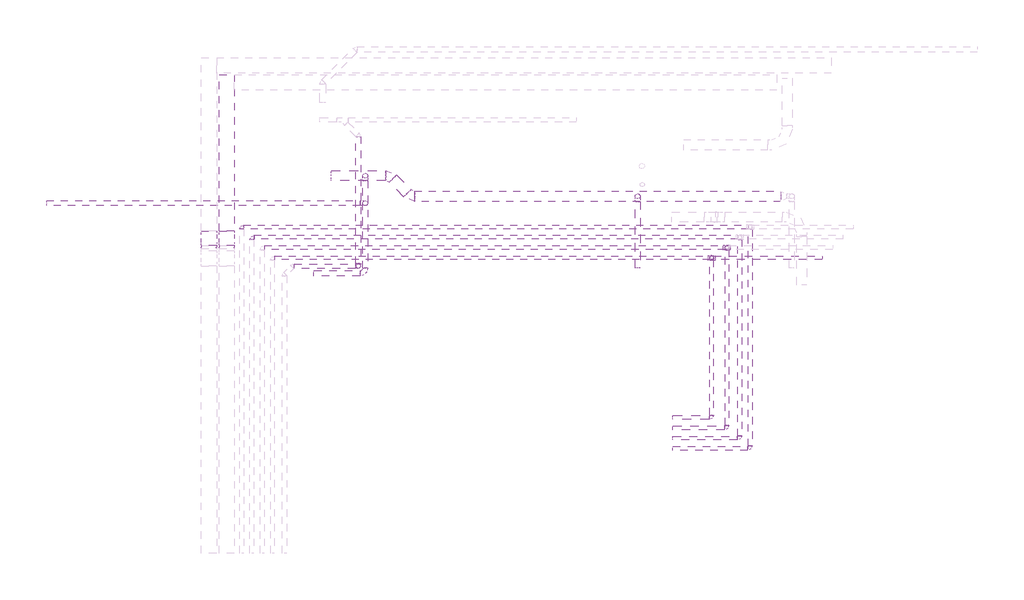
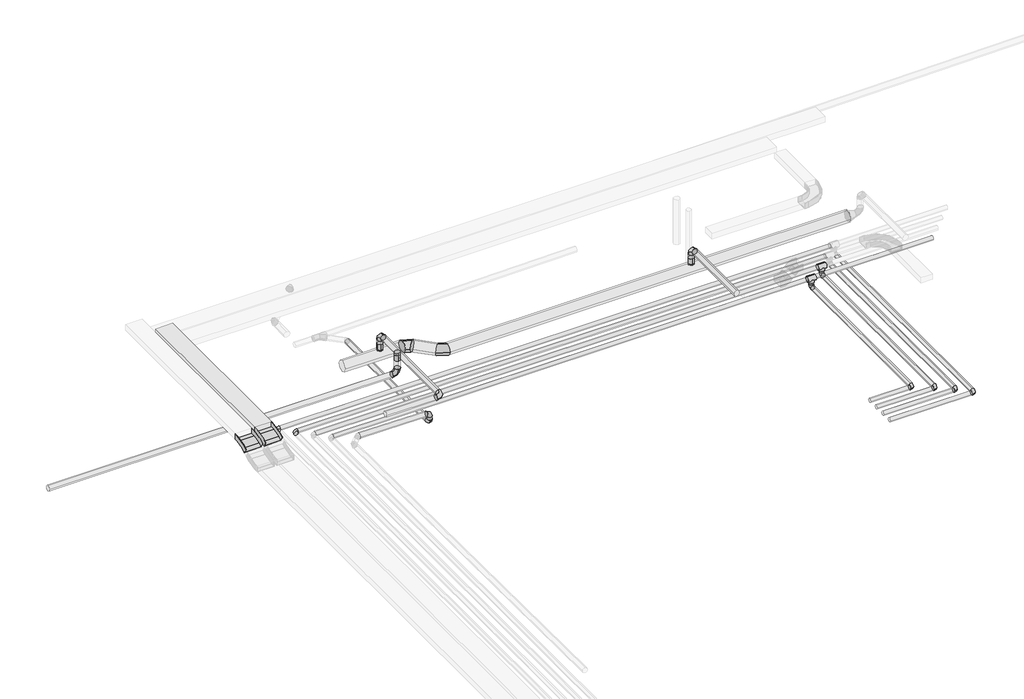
# One storey, part 4 of 5: 18 pipe segments, 12 pipe fittings, 10 duct segments, 9 duct fittings, 2 cable carrier fittings, 1 cable carrier segment.
"""IFC4 building model written with IfcOpenShell, lengths in millimetres."""

from ifc_helpers import new_model, si_unit, point, frame, frame_2d, origin, place, context, project, spatial, polyline, circle_curve, trimmed, segment, composite_curve, outline, extrude, transform, mapped, element, save
from components import m_codo_vertical_exterior_de_canal_el_c4dc7364, ext_600b08cb, ext_088e3dfa, ext_2c048923, m_codo_redondo_ext_1_d_85067ab4, m_codo_redondo_ext_1_d_d62552e0, pipe_fitting_688cd524, pipe_fitting_3a68447e, t_soldadura_a_enchufe_ff252817

model = new_model("IFC4")

# Units and contexts
model_context = context("Model", 3, world=origin())
ifc_project = project(units=[si_unit("LENGTHUNIT", "METRE", prefix="MILLI")], contexts=[model_context])

# Site, building, storey
site = spatial("IfcSite", under=ifc_project)
building = spatial("IfcBuilding", under=site)
storey = spatial("IfcBuildingStorey", under=building, Name="Nivell 02 P02_PP", Elevation=14910.0)

# Cable carrier fittings
placement = place(None, origin())
m_codo_vertical_exterior_de_canal_el_shape = m_codo_vertical_exterior_de_canal_el_c4dc7364(model_context)
element("IfcCableCarrierFitting", 1, ObjectType="M_Codo vertical exterior de canal : EL", at=placement, inside=storey, context=model_context, shape_type="MappedRepresentation", body=[
    mapped(m_codo_vertical_exterior_de_canal_el_shape, transform((5357.0671065, 6149.6159499, 18210.0), x_axis=(0.0, -1.0, 0.0), y_axis=(0.0, 0.0, -1.0), z_axis=(1.0, 0.0, 0.0))),
])
element("IfcCableCarrierFitting", 2, ObjectType="M_Codo vertical exterior de canal : EL", at=placement, inside=storey, context=model_context, shape_type="MappedRepresentation", body=[
    mapped(m_codo_vertical_exterior_de_canal_el_shape, transform((5008.2381883, 6149.6159499, 18210.0), x_axis=(0.0, -1.0, 0.0), y_axis=(0.0, 0.0, -1.0), z_axis=(1.0, 0.0, 0.0))),
])

# Cable carrier segment
element("IfcCableCarrierSegment", 3, ObjectType="EL", at=placement, inside=storey, context=model_context, shape_type="SweptSolid", body=[
    extrude(outline(polyline([(5207.0671065, 9356.732053), (5507.0671065, 9356.732053), (5507.0671065, 6318.3981673), (5207.0671065, 6318.3981673), (5207.0671065, 9356.732053)])), frame((0.0, 0.0, 18160.0), z_axis=(0.0, 0.0, 1.0), x_axis=(1.0, 0.0, 0.0)), (0.0, 0.0, 1.0), 100.0),
])

# Duct fittings
ext_shape = ext_600b08cb(model_context)
element("IfcDuctFitting", 4, ObjectType="M_Toma de derivación redonda : EXT", at=placement, inside=storey, context=model_context, shape_type="MappedRepresentation", body=[
    mapped(ext_shape, transform((13350.5896993, 6992.2199701, 18090.0), x_axis=(0.0, 0.0, 1.0), y_axis=(1.0, 0.0, 0.0), z_axis=(0.0, 1.0, 0.0))),
])
ext_2_shape = ext_088e3dfa(model_context)
element("IfcDuctFitting", 5, ObjectType="M_Toma de derivación redonda : EXT", at=placement, inside=storey, context=model_context, shape_type="MappedRepresentation", body=[
    mapped(ext_2_shape, transform((8050.5896993, 6856.5337216, 18310.0), x_axis=(0.0, 0.0, -1.0), y_axis=(0.0, -1.0, 0.0), z_axis=(-1.0, 0.0, 0.0))),
])
ext_3_shape = ext_2c048923(model_context)
element("IfcDuctFitting", 6, ObjectType="M_Toma de derivación redonda : EXT", at=placement, inside=storey, context=model_context, shape_type="MappedRepresentation", body=[
    mapped(ext_3_shape, transform((8050.5896993, 7392.2199701, 18090.0), x_axis=(0.0, 0.0, 1.0), y_axis=(1.0, 0.0, 0.0), z_axis=(0.0, 1.0, 0.0))),
])
m_codo_redondo_ext_1_d_shape = m_codo_redondo_ext_1_d_85067ab4(model_context)
element("IfcDuctFitting", 7, ObjectType="M_Codo redondo : EXT_1 D", at=placement, inside=storey, context=model_context, shape_type="MappedRepresentation", body=[
    mapped(m_codo_redondo_ext_1_d_shape, transform((8050.5896993, 5490.7319202, 18360.0), x_axis=(1.0, 0.0, 0.0), y_axis=(0.0, 1.0, 0.0), z_axis=(0.0, 0.0, 1.0))),
])
element("IfcDuctFitting", 8, ObjectType="M_Codo redondo : EXT_1 D", at=placement, inside=storey, context=model_context, shape_type="MappedRepresentation", body=[
    mapped(m_codo_redondo_ext_1_d_shape, transform((13350.5896993, 6992.2199701, 18360.0), x_axis=(0.0, 1.0, 0.0), y_axis=(0.0, 0.0, -1.0), z_axis=(-1.0, 0.0, 0.0))),
])
element("IfcDuctFitting", 9, ObjectType="M_Codo redondo : EXT_1 D", at=placement, inside=storey, context=model_context, shape_type="MappedRepresentation", body=[
    mapped(m_codo_redondo_ext_1_d_shape, transform((8050.5896993, 6856.5337216, 17960.0), x_axis=(0.0, 0.0, -1.0), y_axis=(-1.0, 0.0, 0.0), z_axis=(0.0, 1.0, 0.0))),
])
element("IfcDuctFitting", 10, ObjectType="M_Codo redondo : EXT_1 D", at=placement, inside=storey, context=model_context, shape_type="MappedRepresentation", body=[
    mapped(m_codo_redondo_ext_1_d_shape, transform((8050.5896993, 7392.2199701, 18360.0), x_axis=(0.0, 1.0, 0.0), y_axis=(0.0, 0.0, -1.0), z_axis=(-1.0, 0.0, 0.0))),
])
m_codo_redondo_ext_1_d_2_shape = m_codo_redondo_ext_1_d_d62552e0(model_context)
element("IfcDuctFitting", 11, ObjectType="M_Codo redondo : EXT_1 D", at=placement, inside=storey, context=model_context, shape_type="MappedRepresentation", body=[
    mapped(m_codo_redondo_ext_1_d_2_shape, transform((8930.5896993, 6992.2199701, 17990.0), x_axis=(0.7071067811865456, -0.7071067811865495, 0.0), y_axis=(0.7071067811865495, 0.7071067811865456, 0.0), z_axis=(0.0, 0.0, 1.0))),
])
element("IfcDuctFitting", 12, ObjectType="M_Codo redondo : EXT_1 D", at=placement, inside=storey, context=model_context, shape_type="MappedRepresentation", body=[
    mapped(m_codo_redondo_ext_1_d_2_shape, transform((8530.5878282, 7392.2218412, 17990.0), x_axis=(-0.7071067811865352, 0.7071067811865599, 0.0), y_axis=(-0.7071067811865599, -0.7071067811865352, 0.0), z_axis=(0.0, 0.0, 1.0))),
])

# Duct segments
element("IfcDuctSegment", 13, ObjectType="EXT_Acer Galvanitzat - Rígid", at=placement, inside=storey, context=model_context, shape_type="SweptSolid", body=[
    extrude(outline(composite_curve([segment(trimmed(circle_curve(frame_2d((6992.2199701, 17990.0)), 100.0), [point((7092.2199701, 17990.0))], [point((6992.2199701, 17890.0))], False, "CARTESIAN"), True, "CONTINUOUS"), segment(trimmed(circle_curve(frame_2d((6992.2199701, 17990.0)), 100.0), [point((6992.2199701, 17890.0))], [point((6892.2199701, 17990.0))], False, "CARTESIAN"), True, "CONTINUOUS"), segment(trimmed(circle_curve(frame_2d((6992.2199701, 17990.0)), 100.0), [point((6892.2199701, 17990.0))], [point((6992.2199701, 18090.0))], False, "CARTESIAN"), True, "CONTINUOUS"), segment(trimmed(circle_curve(frame_2d((6992.2199701, 17990.0)), 100.0), [point((6992.2199701, 18090.0))], [point((7092.2199701, 17990.0))], False, "CARTESIAN"), True, "CONTINUOUS")], self_intersect=False)), frame((9013.4324117, 0.0, 0.0), z_axis=(1.0, 0.0, 0.0), x_axis=(0.0, 1.0, 0.0)), (0.0, 0.0, 1.0), 7116.4466094),
])
element("IfcDuctSegment", 14, ObjectType="EXT_Acer Galvanitzat - Rígid", at=placement, inside=storey, context=model_context, shape_type="SweptSolid", body=[
    extrude(outline(composite_curve([segment(trimmed(circle_curve(frame_2d((5490.7319202, 18360.0)), 50.0), [point((5440.7319202, 18360.0))], [point((5490.7319202, 18410.0))], False, "CARTESIAN"), True, "CONTINUOUS"), segment(trimmed(circle_curve(frame_2d((5490.7319202, 18360.0)), 50.0), [point((5490.7319202, 18410.0))], [point((5540.7319202, 18360.0))], False, "CARTESIAN"), True, "CONTINUOUS"), segment(trimmed(circle_curve(frame_2d((5490.7319202, 18360.0)), 50.0), [point((5540.7319202, 18360.0))], [point((5490.7319202, 18310.0))], False, "CARTESIAN"), True, "CONTINUOUS"), segment(trimmed(circle_curve(frame_2d((5490.7319202, 18360.0)), 50.0), [point((5490.7319202, 18310.0))], [point((5440.7319202, 18360.0))], False, "CARTESIAN"), True, "CONTINUOUS")], self_intersect=False)), frame((7050.5896993, 0.0, 0.0), z_axis=(1.0, 0.0, 0.0), x_axis=(0.0, 1.0, 0.0)), (0.0, 0.0, 1.0), 900.0),
])
element("IfcDuctSegment", 15, ObjectType="EXT_Acer Galvanitzat - Rígid", at=placement, inside=storey, context=model_context, shape_type="SweptSolid", body=[
    extrude(outline(composite_curve([segment(trimmed(circle_curve(frame_2d((18360.0, 8050.5896993)), 50.0), [point((18360.0, 8000.5896993))], [point((18310.0, 8050.5896993))], False, "CARTESIAN"), True, "CONTINUOUS"), segment(trimmed(circle_curve(frame_2d((18360.0, 8050.5896993)), 50.0), [point((18310.0, 8050.5896993))], [point((18360.0, 8100.5896993))], False, "CARTESIAN"), True, "CONTINUOUS"), segment(trimmed(circle_curve(frame_2d((18360.0, 8050.5896993)), 50.0), [point((18360.0, 8100.5896993))], [point((18410.0, 8050.5896993))], False, "CARTESIAN"), True, "CONTINUOUS"), segment(trimmed(circle_curve(frame_2d((18360.0, 8050.5896993)), 50.0), [point((18410.0, 8050.5896993))], [point((18360.0, 8000.5896993))], False, "CARTESIAN"), True, "CONTINUOUS")], self_intersect=False)), frame((0.0, 5590.7319202, 0.0), z_axis=(0.0, 1.0, 0.0), x_axis=(0.0, 0.0, 1.0)), (0.0, 0.0, 1.0), 1701.48805),
])
element("IfcDuctSegment", 16, ObjectType="EXT_Acer Galvanitzat - Rígid", at=placement, inside=storey, context=model_context, shape_type="SweptSolid", body=[
    extrude(outline(composite_curve([segment(trimmed(circle_curve(frame_2d((8050.5896993, 7392.2199701)), 50.0), [point((8000.5896993, 7392.2199701))], [point((8050.5896993, 7442.2199701))], False, "CARTESIAN"), True, "CONTINUOUS"), segment(trimmed(circle_curve(frame_2d((8050.5896993, 7392.2199701)), 50.0), [point((8050.5896993, 7442.2199701))], [point((8100.5896993, 7392.2199701))], False, "CARTESIAN"), True, "CONTINUOUS"), segment(trimmed(circle_curve(frame_2d((8050.5896993, 7392.2199701)), 50.0), [point((8100.5896993, 7392.2199701))], [point((8050.5896993, 7342.2199701))], False, "CARTESIAN"), True, "CONTINUOUS"), segment(trimmed(circle_curve(frame_2d((8050.5896993, 7392.2199701)), 50.0), [point((8050.5896993, 7342.2199701))], [point((8000.5896993, 7392.2199701))], False, "CARTESIAN"), True, "CONTINUOUS")], self_intersect=False)), frame((0.0, 0.0, 18191.6), z_axis=(0.0, 0.0, 1.0), x_axis=(1.0, 0.0, 0.0)), (0.0, 0.0, 1.0), 68.4),
])
element("IfcDuctSegment", 17, ObjectType="EXT_Acer Galvanitzat - Rígid", at=placement, inside=storey, context=model_context, shape_type="SweptSolid", body=[
    extrude(outline(composite_curve([segment(trimmed(circle_curve(frame_2d((18360.0, 13350.5896993)), 50.0), [point((18360.0, 13300.5896993))], [point((18310.0, 13350.5896993))], False, "CARTESIAN"), True, "CONTINUOUS"), segment(trimmed(circle_curve(frame_2d((18360.0, 13350.5896993)), 50.0), [point((18310.0, 13350.5896993))], [point((18360.0, 13400.5896993))], False, "CARTESIAN"), True, "CONTINUOUS"), segment(trimmed(circle_curve(frame_2d((18360.0, 13350.5896993)), 50.0), [point((18360.0, 13400.5896993))], [point((18410.0, 13350.5896993))], False, "CARTESIAN"), True, "CONTINUOUS"), segment(trimmed(circle_curve(frame_2d((18360.0, 13350.5896993)), 50.0), [point((18410.0, 13350.5896993))], [point((18360.0, 13300.5896993))], False, "CARTESIAN"), True, "CONTINUOUS")], self_intersect=False)), frame((0.0, 5590.7319202, 0.0), z_axis=(0.0, 1.0, 0.0), x_axis=(0.0, 0.0, 1.0)), (0.0, 0.0, 1.0), 1301.48805),
])
element("IfcDuctSegment", 18, ObjectType="EXT_Acer Galvanitzat - Rígid", at=placement, inside=storey, context=model_context, shape_type="SweptSolid", body=[
    extrude(outline(composite_curve([segment(trimmed(circle_curve(frame_2d((13350.5896993, 6992.2199701)), 50.0), [point((13300.5896993, 6992.2199701))], [point((13350.5896993, 7042.2199701))], False, "CARTESIAN"), True, "CONTINUOUS"), segment(trimmed(circle_curve(frame_2d((13350.5896993, 6992.2199701)), 50.0), [point((13350.5896993, 7042.2199701))], [point((13400.5896993, 6992.2199701))], False, "CARTESIAN"), True, "CONTINUOUS"), segment(trimmed(circle_curve(frame_2d((13350.5896993, 6992.2199701)), 50.0), [point((13400.5896993, 6992.2199701))], [point((13350.5896993, 6942.2199701))], False, "CARTESIAN"), True, "CONTINUOUS"), segment(trimmed(circle_curve(frame_2d((13350.5896993, 6992.2199701)), 50.0), [point((13350.5896993, 6942.2199701))], [point((13300.5896993, 6992.2199701))], False, "CARTESIAN"), True, "CONTINUOUS")], self_intersect=False)), frame((0.0, 0.0, 18191.6), z_axis=(0.0, 0.0, 1.0), x_axis=(1.0, 0.0, 0.0)), (0.0, 0.0, 1.0), 68.4),
])
element("IfcDuctSegment", 19, ObjectType="EXT_Acer Galvanitzat - Rígid", at=placement, inside=storey, context=model_context, shape_type="SweptSolid", body=[
    extrude(outline(composite_curve([segment(trimmed(circle_curve(frame_2d((8050.5896993, 6856.5337216)), 50.0), [point((8050.5896993, 6906.5337216))], [point((8100.5896993, 6856.5337216))], False, "CARTESIAN"), True, "CONTINUOUS"), segment(trimmed(circle_curve(frame_2d((8050.5896993, 6856.5337216)), 50.0), [point((8100.5896993, 6856.5337216))], [point((8050.5896993, 6806.5337216))], False, "CARTESIAN"), True, "CONTINUOUS"), segment(trimmed(circle_curve(frame_2d((8050.5896993, 6856.5337216)), 50.0), [point((8050.5896993, 6806.5337216))], [point((8000.5896993, 6856.5337216))], False, "CARTESIAN"), True, "CONTINUOUS"), segment(trimmed(circle_curve(frame_2d((8050.5896993, 6856.5337216)), 50.0), [point((8000.5896993, 6856.5337216))], [point((8050.5896993, 6906.5337216))], False, "CARTESIAN"), True, "CONTINUOUS")], self_intersect=False)), frame((0.0, 0.0, 18060.0), z_axis=(0.0, 0.0, 1.0), x_axis=(1.0, 0.0, 0.0)), (0.0, 0.0, 1.0), 148.4),
])
element("IfcDuctSegment", 20, ObjectType="EXT_Acer Galvanitzat - Rígid", at=placement, inside=storey, context=model_context, shape_type="SweptSolid", body=[
    extrude(outline(composite_curve([segment(trimmed(circle_curve(frame_2d((6856.5337216, 17960.0)), 50.0), [point((6906.5337216, 17960.0))], [point((6856.5337216, 17910.0))], False, "CARTESIAN"), True, "CONTINUOUS"), segment(trimmed(circle_curve(frame_2d((6856.5337216, 17960.0)), 50.0), [point((6856.5337216, 17910.0))], [point((6806.5337216, 17960.0))], False, "CARTESIAN"), True, "CONTINUOUS"), segment(trimmed(circle_curve(frame_2d((6856.5337216, 17960.0)), 50.0), [point((6806.5337216, 17960.0))], [point((6856.5337216, 18010.0))], False, "CARTESIAN"), True, "CONTINUOUS"), segment(trimmed(circle_curve(frame_2d((6856.5337216, 17960.0)), 50.0), [point((6856.5337216, 18010.0))], [point((6906.5337216, 17960.0))], False, "CARTESIAN"), True, "CONTINUOUS")], self_intersect=False)), frame((1850.5896993, 0.0, 0.0), z_axis=(1.0, 0.0, 0.0), x_axis=(0.0, 1.0, 0.0)), (0.0, 0.0, 1.0), 6100.0),
])
element("IfcDuctSegment", 21, ObjectType="EXT_Acer Galvanitzat - Rígid", at=placement, inside=storey, context=model_context, shape_type="SweptSolid", body=[
    extrude(outline(composite_curve([segment(trimmed(circle_curve(frame_2d((0.0, 100.0)), 100.0), [point((100.0, 100.0))], [point((0.0, 0.0))], False, "CARTESIAN"), True, "CONTINUOUS"), segment(trimmed(circle_curve(frame_2d((0.0, 100.0)), 100.0), [point((0.0, 0.0))], [point((-100.0, 100.0))], False, "CARTESIAN"), True, "CONTINUOUS"), segment(trimmed(circle_curve(frame_2d((0.0, 100.0)), 100.0), [point((-100.0, 100.0))], [point((0.0, 200.0))], False, "CARTESIAN"), True, "CONTINUOUS"), segment(trimmed(circle_curve(frame_2d((0.0, 100.0)), 100.0), [point((0.0, 200.0))], [point((100.0, 100.0))], False, "CARTESIAN"), True, "CONTINUOUS")], self_intersect=False)), frame((8872.0110555, 7050.7986139, 18090.0), z_axis=(-0.7071067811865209, 0.7071067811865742, 0.0), x_axis=(0.7071067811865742, 0.7071067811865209, 0.0)), (0.0, 0.0, 1.0), 400.0026461),
])
element("IfcDuctSegment", 22, ObjectType="EXT_Acer Galvanitzat - Rígid", at=placement, inside=storey, context=model_context, shape_type="SweptSolid", body=[
    extrude(outline(composite_curve([segment(trimmed(circle_curve(frame_2d((7392.2218412, 17990.0)), 100.0), [point((7492.2218412, 17990.0))], [point((7392.2218412, 17890.0))], False, "CARTESIAN"), True, "CONTINUOUS"), segment(trimmed(circle_curve(frame_2d((7392.2218412, 17990.0)), 100.0), [point((7392.2218412, 17890.0))], [point((7292.2218412, 17990.0))], False, "CARTESIAN"), True, "CONTINUOUS"), segment(trimmed(circle_curve(frame_2d((7392.2218412, 17990.0)), 100.0), [point((7292.2218412, 17990.0))], [point((7392.2218412, 18090.0))], False, "CARTESIAN"), True, "CONTINUOUS"), segment(trimmed(circle_curve(frame_2d((7392.2218412, 17990.0)), 100.0), [point((7392.2218412, 18090.0))], [point((7492.2218412, 17990.0))], False, "CARTESIAN"), True, "CONTINUOUS")], self_intersect=False)), frame((7390.5878282, 0.0, 0.0), z_axis=(1.0, 0.0, 0.0), x_axis=(0.0, 1.0, 0.0)), (0.0, 0.0, 1.0), 1057.1572875),
])

# Pipe fittings
pipe_fitting_shape = pipe_fitting_688cd524(model_context)
element("IfcPipeFitting", 23, ObjectType="M_Codo - Genérico : Estándar", at=placement, inside=storey, context=model_context, shape_type="MappedRepresentation", body=[
    mapped(pipe_fitting_shape, transform((7914.0895519, 5631.0053732, 17992.1394404), x_axis=(0.9999500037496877, 0.0, -0.00999950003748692), y_axis=(-0.00999950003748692, 0.0, -0.9999500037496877), z_axis=(0.0, 1.0, 0.0))),
])
element("IfcPipeFitting", 24, ObjectType="M_Codo - Genérico : Estándar", at=placement, inside=storey, context=model_context, shape_type="MappedRepresentation", body=[
    mapped(pipe_fitting_shape, transform((7914.0627734, 5631.0105829, 17840.0), x_axis=(0.0, 0.0, -1.0), y_axis=(0.0, 1.0, 0.0), z_axis=(1.0, 0.0, 0.0))),
])
pipe_fitting_2_shape = pipe_fitting_3a68447e(model_context)
element("IfcPipeFitting", 25, ObjectType="M_Codo - Genérico : Estándar", at=placement, inside=storey, context=model_context, shape_type="MappedRepresentation", body=[
    mapped(pipe_fitting_2_shape, transform((5645.7381883, 6394.2427547, 18022.5), x_axis=(-1.0, 0.0, 0.0), y_axis=(0.0, -1.0, 0.0), z_axis=(0.0, 0.0, 1.0))),
])
element("IfcPipeFitting", 26, ObjectType="M_Codo - Genérico : Estándar", at=placement, inside=storey, context=model_context, shape_type="MappedRepresentation", body=[
    mapped(pipe_fitting_2_shape, transform((5845.7381883, 6194.2427547, 18022.5), x_axis=(-1.0, 0.0, 0.0), y_axis=(0.0, -1.0, 0.0), z_axis=(0.0, 0.0, 1.0))),
])
element("IfcPipeFitting", 27, ObjectType="M_Codo - Genérico : Estándar", at=placement, inside=storey, context=model_context, shape_type="MappedRepresentation", body=[
    mapped(pipe_fitting_2_shape, transform((14787.4352568, 2683.4063617, 17872.5), x_axis=(1.0, 0.0, 0.0), y_axis=(0.0, 1.0, 0.0), z_axis=(0.0, 0.0, 1.0))),
])
element("IfcPipeFitting", 28, ObjectType="M_Codo - Genérico : Estándar", at=placement, inside=storey, context=model_context, shape_type="MappedRepresentation", body=[
    mapped(pipe_fitting_2_shape, transform((14787.4352568, 5794.2427547, 17872.5), x_axis=(0.0, 0.0, -1.0), y_axis=(0.0, -1.0, 0.0), z_axis=(-1.0, 0.0, 0.0))),
])
element("IfcPipeFitting", 29, ObjectType="M_Codo - Genérico : Estándar", at=placement, inside=storey, context=model_context, shape_type="MappedRepresentation", body=[
    mapped(pipe_fitting_2_shape, transform((15087.4352568, 2483.4063617, 17872.5), x_axis=(1.0, 0.0, 0.0), y_axis=(0.0, 1.0, 0.0), z_axis=(0.0, 0.0, 1.0))),
])
element("IfcPipeFitting", 30, ObjectType="M_Codo - Genérico : Estándar", at=placement, inside=storey, context=model_context, shape_type="MappedRepresentation", body=[
    mapped(pipe_fitting_2_shape, transform((15087.4352568, 5994.2427547, 17872.5), x_axis=(0.0, 0.0, -1.0), y_axis=(0.0, -1.0, 0.0), z_axis=(-1.0, 0.0, 0.0))),
])
element("IfcPipeFitting", 31, ObjectType="M_Codo - Genérico : Estándar", at=placement, inside=storey, context=model_context, shape_type="MappedRepresentation", body=[
    mapped(pipe_fitting_2_shape, transform((15337.4352568, 2283.4063617, 17872.5), x_axis=(1.0, 0.0, 0.0), y_axis=(0.0, 1.0, 0.0), z_axis=(0.0, 0.0, 1.0))),
])
element("IfcPipeFitting", 32, ObjectType="M_Codo - Genérico : Estándar", at=placement, inside=storey, context=model_context, shape_type="MappedRepresentation", body=[
    mapped(pipe_fitting_2_shape, transform((15537.4352568, 2083.4063617, 17872.5), x_axis=(1.0, 0.0, 0.0), y_axis=(0.0, 1.0, 0.0), z_axis=(0.0, 0.0, 1.0))),
])
t_soldadura_a_enchufe_shape = t_soldadura_a_enchufe_ff252817(model_context)
element("IfcPipeFitting", 33, ObjectType="T-Soldadura a enchufe : Estándar", at=placement, inside=storey, context=model_context, shape_type="MappedRepresentation", body=[
    mapped(t_soldadura_a_enchufe_shape, transform((14787.4352568, 5794.2427547, 18022.5), x_axis=(-1.0, 0.0, 0.0), y_axis=(0.0, 0.0, 1.0), z_axis=(0.0, 1.0, 0.0))),
])
element("IfcPipeFitting", 34, ObjectType="T-Soldadura a enchufe : Estándar", at=placement, inside=storey, context=model_context, shape_type="MappedRepresentation", body=[
    mapped(t_soldadura_a_enchufe_shape, transform((15087.4352568, 5994.2427547, 18022.5), x_axis=(-1.0, 0.0, 0.0), y_axis=(0.0, 0.0, 1.0), z_axis=(0.0, 1.0, 0.0))),
])

# Pipe segments
element("IfcPipeSegment", 35, ObjectType="PPR_CLI_Aquatherm Blue Pipe", at=placement, inside=storey, context=model_context, shape_type="SweptSolid", body=[
    extrude(outline(composite_curve([segment(trimmed(circle_curve(frame_2d((2683.4063617, 17872.5)), 37.5), [point((2645.9063617, 17872.5))], [point((2683.4063617, 17910.0))], False, "CARTESIAN"), True, "CONTINUOUS"), segment(trimmed(circle_curve(frame_2d((2683.4063617, 17872.5)), 37.5), [point((2683.4063617, 17910.0))], [point((2720.9063617, 17872.5))], False, "CARTESIAN"), True, "CONTINUOUS"), segment(trimmed(circle_curve(frame_2d((2683.4063617, 17872.5)), 37.5), [point((2720.9063617, 17872.5))], [point((2683.4063617, 17835.0))], False, "CARTESIAN"), True, "CONTINUOUS"), segment(trimmed(circle_curve(frame_2d((2683.4063617, 17872.5)), 37.5), [point((2683.4063617, 17835.0))], [point((2645.9063617, 17872.5))], False, "CARTESIAN"), True, "CONTINUOUS")], self_intersect=False)), frame((14037.4352568, 0.0, 0.0), z_axis=(1.0, 0.0, 0.0), x_axis=(0.0, 1.0, 0.0)), (0.0, 0.0, 1.0), 704.5625),
])
element("IfcPipeSegment", 36, ObjectType="PPR_CLI_Aquatherm Blue Pipe", at=placement, inside=storey, context=model_context, shape_type="SweptSolid", body=[
    extrude(outline(composite_curve([segment(trimmed(circle_curve(frame_2d((17872.5, 14787.4352568)), 37.5), [point((17872.5, 14824.9352568))], [point((17910.0, 14787.4352568))], False, "CARTESIAN"), True, "CONTINUOUS"), segment(trimmed(circle_curve(frame_2d((17872.5, 14787.4352568)), 37.5), [point((17910.0, 14787.4352568))], [point((17872.5, 14749.9352568))], False, "CARTESIAN"), True, "CONTINUOUS"), segment(trimmed(circle_curve(frame_2d((17872.5, 14787.4352568)), 37.5), [point((17872.5, 14749.9352568))], [point((17835.0, 14787.4352568))], False, "CARTESIAN"), True, "CONTINUOUS"), segment(trimmed(circle_curve(frame_2d((17872.5, 14787.4352568)), 37.5), [point((17835.0, 14787.4352568))], [point((17872.5, 14824.9352568))], False, "CARTESIAN"), True, "CONTINUOUS")], self_intersect=False)), frame((0.0, 2728.8438617, 0.0), z_axis=(0.0, 1.0, 0.0), x_axis=(0.0, 0.0, 1.0)), (0.0, 0.0, 1.0), 3019.9613931),
])
element("IfcPipeSegment", 37, ObjectType="PPR_CLI_Aquatherm Blue Pipe", at=placement, inside=storey, context=model_context, shape_type="SweptSolid", body=[
    extrude(outline(composite_curve([segment(trimmed(circle_curve(frame_2d((2483.4063617, 17872.5)), 37.5), [point((2445.9063617, 17872.5))], [point((2483.4063617, 17910.0))], False, "CARTESIAN"), True, "CONTINUOUS"), segment(trimmed(circle_curve(frame_2d((2483.4063617, 17872.5)), 37.5), [point((2483.4063617, 17910.0))], [point((2520.9063617, 17872.5))], False, "CARTESIAN"), True, "CONTINUOUS"), segment(trimmed(circle_curve(frame_2d((2483.4063617, 17872.5)), 37.5), [point((2520.9063617, 17872.5))], [point((2483.4063617, 17835.0))], False, "CARTESIAN"), True, "CONTINUOUS"), segment(trimmed(circle_curve(frame_2d((2483.4063617, 17872.5)), 37.5), [point((2483.4063617, 17835.0))], [point((2445.9063617, 17872.5))], False, "CARTESIAN"), True, "CONTINUOUS")], self_intersect=False)), frame((14037.4352568, 0.0, 0.0), z_axis=(1.0, 0.0, 0.0), x_axis=(0.0, 1.0, 0.0)), (0.0, 0.0, 1.0), 1004.5625),
])
element("IfcPipeSegment", 38, ObjectType="PPR_CLI_Aquatherm Blue Pipe", at=placement, inside=storey, context=model_context, shape_type="SweptSolid", body=[
    extrude(outline(composite_curve([segment(trimmed(circle_curve(frame_2d((17872.5, 15087.4352568)), 37.5), [point((17872.5, 15124.9352568))], [point((17910.0, 15087.4352568))], False, "CARTESIAN"), True, "CONTINUOUS"), segment(trimmed(circle_curve(frame_2d((17872.5, 15087.4352568)), 37.5), [point((17910.0, 15087.4352568))], [point((17872.5, 15049.9352568))], False, "CARTESIAN"), True, "CONTINUOUS"), segment(trimmed(circle_curve(frame_2d((17872.5, 15087.4352568)), 37.5), [point((17872.5, 15049.9352568))], [point((17835.0, 15087.4352568))], False, "CARTESIAN"), True, "CONTINUOUS"), segment(trimmed(circle_curve(frame_2d((17872.5, 15087.4352568)), 37.5), [point((17835.0, 15087.4352568))], [point((17872.5, 15124.9352568))], False, "CARTESIAN"), True, "CONTINUOUS")], self_intersect=False)), frame((0.0, 2528.8438617, 0.0), z_axis=(0.0, 1.0, 0.0), x_axis=(0.0, 0.0, 1.0)), (0.0, 0.0, 1.0), 3419.9613931),
])
element("IfcPipeSegment", 39, ObjectType="PPR_CLI_Aquatherm Blue Pipe", at=placement, inside=storey, context=model_context, shape_type="SweptSolid", body=[
    extrude(outline(composite_curve([segment(trimmed(circle_curve(frame_2d((2283.4063617, 17872.5)), 37.5), [point((2245.9063617, 17872.5))], [point((2283.4063617, 17910.0))], False, "CARTESIAN"), True, "CONTINUOUS"), segment(trimmed(circle_curve(frame_2d((2283.4063617, 17872.5)), 37.5), [point((2283.4063617, 17910.0))], [point((2320.9063617, 17872.5))], False, "CARTESIAN"), True, "CONTINUOUS"), segment(trimmed(circle_curve(frame_2d((2283.4063617, 17872.5)), 37.5), [point((2320.9063617, 17872.5))], [point((2283.4063617, 17835.0))], False, "CARTESIAN"), True, "CONTINUOUS"), segment(trimmed(circle_curve(frame_2d((2283.4063617, 17872.5)), 37.5), [point((2283.4063617, 17835.0))], [point((2245.9063617, 17872.5))], False, "CARTESIAN"), True, "CONTINUOUS")], self_intersect=False)), frame((14037.4352568, 0.0, 0.0), z_axis=(1.0, 0.0, 0.0), x_axis=(0.0, 1.0, 0.0)), (0.0, 0.0, 1.0), 1254.5625),
])
element("IfcPipeSegment", 40, ObjectType="PPR_CLI_Aquatherm Blue Pipe", at=placement, inside=storey, context=model_context, shape_type="SweptSolid", body=[
    extrude(outline(composite_curve([segment(trimmed(circle_curve(frame_2d((17872.5, 15337.4352568)), 37.5), [point((17872.5, 15374.9352568))], [point((17910.0, 15337.4352568))], False, "CARTESIAN"), True, "CONTINUOUS"), segment(trimmed(circle_curve(frame_2d((17872.5, 15337.4352568)), 37.5), [point((17910.0, 15337.4352568))], [point((17872.5, 15299.9352568))], False, "CARTESIAN"), True, "CONTINUOUS"), segment(trimmed(circle_curve(frame_2d((17872.5, 15337.4352568)), 37.5), [point((17872.5, 15299.9352568))], [point((17835.0, 15337.4352568))], False, "CARTESIAN"), True, "CONTINUOUS"), segment(trimmed(circle_curve(frame_2d((17872.5, 15337.4352568)), 37.5), [point((17835.0, 15337.4352568))], [point((17872.5, 15374.9352568))], False, "CARTESIAN"), True, "CONTINUOUS")], self_intersect=False)), frame((0.0, 2328.8438617, 0.0), z_axis=(0.0, 1.0, 0.0), x_axis=(0.0, 0.0, 1.0)), (0.0, 0.0, 1.0), 3819.9613931),
])
element("IfcPipeSegment", 41, ObjectType="PPR_CLI_Aquatherm Blue Pipe", at=placement, inside=storey, context=model_context, shape_type="SweptSolid", body=[
    extrude(outline(composite_curve([segment(trimmed(circle_curve(frame_2d((2083.4063617, 17872.5)), 37.5), [point((2045.9063617, 17872.5))], [point((2083.4063617, 17910.0))], False, "CARTESIAN"), True, "CONTINUOUS"), segment(trimmed(circle_curve(frame_2d((2083.4063617, 17872.5)), 37.5), [point((2083.4063617, 17910.0))], [point((2120.9063617, 17872.5))], False, "CARTESIAN"), True, "CONTINUOUS"), segment(trimmed(circle_curve(frame_2d((2083.4063617, 17872.5)), 37.5), [point((2120.9063617, 17872.5))], [point((2083.4063617, 17835.0))], False, "CARTESIAN"), True, "CONTINUOUS"), segment(trimmed(circle_curve(frame_2d((2083.4063617, 17872.5)), 37.5), [point((2083.4063617, 17835.0))], [point((2045.9063617, 17872.5))], False, "CARTESIAN"), True, "CONTINUOUS")], self_intersect=False)), frame((14037.4352568, 0.0, 0.0), z_axis=(1.0, 0.0, 0.0), x_axis=(0.0, 1.0, 0.0)), (0.0, 0.0, 1.0), 1454.5625),
])
element("IfcPipeSegment", 42, ObjectType="PPR_CLI_Aquatherm Blue Pipe", at=placement, inside=storey, context=model_context, shape_type="SweptSolid", body=[
    extrude(outline(composite_curve([segment(trimmed(circle_curve(frame_2d((17872.5, 15537.4352568)), 37.5), [point((17872.5, 15574.9352568))], [point((17910.0, 15537.4352568))], False, "CARTESIAN"), True, "CONTINUOUS"), segment(trimmed(circle_curve(frame_2d((17872.5, 15537.4352568)), 37.5), [point((17910.0, 15537.4352568))], [point((17872.5, 15499.9352568))], False, "CARTESIAN"), True, "CONTINUOUS"), segment(trimmed(circle_curve(frame_2d((17872.5, 15537.4352568)), 37.5), [point((17872.5, 15499.9352568))], [point((17835.0, 15537.4352568))], False, "CARTESIAN"), True, "CONTINUOUS"), segment(trimmed(circle_curve(frame_2d((17872.5, 15537.4352568)), 37.5), [point((17835.0, 15537.4352568))], [point((17872.5, 15574.9352568))], False, "CARTESIAN"), True, "CONTINUOUS")], self_intersect=False)), frame((0.0, 2128.8438617, 0.0), z_axis=(0.0, 1.0, 0.0), x_axis=(0.0, 0.0, 1.0)), (0.0, 0.0, 1.0), 4219.9613931),
])
element("IfcPipeSegment", 43, ObjectType="PPR_CLI_Aquatherm Blue Pipe", at=placement, inside=storey, context=model_context, shape_type="SweptSolid", body=[
    extrude(outline(composite_curve([segment(trimmed(circle_curve(frame_2d((5794.2427547, 18022.5)), 37.5), [point((5756.7427547, 18022.5))], [point((5794.2427547, 18060.0))], False, "CARTESIAN"), True, "CONTINUOUS"), segment(trimmed(circle_curve(frame_2d((5794.2427547, 18022.5)), 37.5), [point((5794.2427547, 18060.0))], [point((5831.7427547, 18022.5))], False, "CARTESIAN"), True, "CONTINUOUS"), segment(trimmed(circle_curve(frame_2d((5794.2427547, 18022.5)), 37.5), [point((5831.7427547, 18022.5))], [point((5794.2427547, 17985.0))], False, "CARTESIAN"), True, "CONTINUOUS"), segment(trimmed(circle_curve(frame_2d((5794.2427547, 18022.5)), 37.5), [point((5794.2427547, 17985.0))], [point((5756.7427547, 18022.5))], False, "CARTESIAN"), True, "CONTINUOUS")], self_intersect=False)), frame((14825.9352568, 0.0, 0.0), z_axis=(1.0, 0.0, 0.0), x_axis=(0.0, 1.0, 0.0)), (0.0, 0.0, 1.0), 2116.3840359),
])
element("IfcPipeSegment", 44, ObjectType="PPR_CLI_Aquatherm Blue Pipe", at=placement, inside=storey, context=model_context, shape_type="SweptSolid", body=[
    extrude(outline(composite_curve([segment(trimmed(circle_curve(frame_2d((14787.4352568, 5794.2427547)), 37.5), [point((14824.9352568, 5794.2427547))], [point((14787.4352568, 5756.7427547))], False, "CARTESIAN"), True, "CONTINUOUS"), segment(trimmed(circle_curve(frame_2d((14787.4352568, 5794.2427547)), 37.5), [point((14787.4352568, 5756.7427547))], [point((14749.9352568, 5794.2427547))], False, "CARTESIAN"), True, "CONTINUOUS"), segment(trimmed(circle_curve(frame_2d((14787.4352568, 5794.2427547)), 37.5), [point((14749.9352568, 5794.2427547))], [point((14787.4352568, 5831.7427547))], False, "CARTESIAN"), True, "CONTINUOUS"), segment(trimmed(circle_curve(frame_2d((14787.4352568, 5794.2427547)), 37.5), [point((14787.4352568, 5831.7427547))], [point((14824.9352568, 5794.2427547))], False, "CARTESIAN"), True, "CONTINUOUS")], self_intersect=False)), frame((0.0, 0.0, 17917.9375), z_axis=(0.0, 0.0, 1.0), x_axis=(1.0, 0.0, 0.0)), (0.0, 0.0, 1.0), 66.0625),
])
element("IfcPipeSegment", 45, ObjectType="PPR_CLI_Aquatherm Blue Pipe", at=placement, inside=storey, context=model_context, shape_type="SweptSolid", body=[
    extrude(outline(composite_curve([segment(trimmed(circle_curve(frame_2d((5794.2427547, 18022.5)), 37.5), [point((5756.7427547, 18022.5))], [point((5794.2427547, 18060.0))], False, "CARTESIAN"), True, "CONTINUOUS"), segment(trimmed(circle_curve(frame_2d((5794.2427547, 18022.5)), 37.5), [point((5794.2427547, 18060.0))], [point((5831.7427547, 18022.5))], False, "CARTESIAN"), True, "CONTINUOUS"), segment(trimmed(circle_curve(frame_2d((5794.2427547, 18022.5)), 37.5), [point((5831.7427547, 18022.5))], [point((5794.2427547, 17985.0))], False, "CARTESIAN"), True, "CONTINUOUS"), segment(trimmed(circle_curve(frame_2d((5794.2427547, 18022.5)), 37.5), [point((5794.2427547, 17985.0))], [point((5756.7427547, 18022.5))], False, "CARTESIAN"), True, "CONTINUOUS")], self_intersect=False)), frame((6291.1756883, 0.0, 0.0), z_axis=(1.0, 0.0, 0.0), x_axis=(0.0, 1.0, 0.0)), (0.0, 0.0, 1.0), 8457.7595685),
])
element("IfcPipeSegment", 46, ObjectType="PPR_CLI_Aquatherm Blue Pipe", at=placement, inside=storey, context=model_context, shape_type="SweptSolid", body=[
    extrude(outline(composite_curve([segment(trimmed(circle_curve(frame_2d((15087.4352568, 5994.2427547)), 37.5), [point((15124.9352568, 5994.2427547))], [point((15087.4352568, 5956.7427547))], False, "CARTESIAN"), True, "CONTINUOUS"), segment(trimmed(circle_curve(frame_2d((15087.4352568, 5994.2427547)), 37.5), [point((15087.4352568, 5956.7427547))], [point((15049.9352568, 5994.2427547))], False, "CARTESIAN"), True, "CONTINUOUS"), segment(trimmed(circle_curve(frame_2d((15087.4352568, 5994.2427547)), 37.5), [point((15049.9352568, 5994.2427547))], [point((15087.4352568, 6031.7427547))], False, "CARTESIAN"), True, "CONTINUOUS"), segment(trimmed(circle_curve(frame_2d((15087.4352568, 5994.2427547)), 37.5), [point((15087.4352568, 6031.7427547))], [point((15124.9352568, 5994.2427547))], False, "CARTESIAN"), True, "CONTINUOUS")], self_intersect=False)), frame((0.0, 0.0, 17917.9375), z_axis=(0.0, 0.0, 1.0), x_axis=(1.0, 0.0, 0.0)), (0.0, 0.0, 1.0), 66.0625),
])
element("IfcPipeSegment", 47, ObjectType="PPR_CLI_Aquatherm Blue Pipe", at=placement, inside=storey, context=model_context, shape_type="SweptSolid", body=[
    extrude(outline(composite_curve([segment(trimmed(circle_curve(frame_2d((5994.2427547, 18022.5)), 37.5), [point((5956.7427547, 18022.5))], [point((5994.2427547, 18060.0))], False, "CARTESIAN"), True, "CONTINUOUS"), segment(trimmed(circle_curve(frame_2d((5994.2427547, 18022.5)), 37.5), [point((5994.2427547, 18060.0))], [point((6031.7427547, 18022.5))], False, "CARTESIAN"), True, "CONTINUOUS"), segment(trimmed(circle_curve(frame_2d((5994.2427547, 18022.5)), 37.5), [point((6031.7427547, 18022.5))], [point((5994.2427547, 17985.0))], False, "CARTESIAN"), True, "CONTINUOUS"), segment(trimmed(circle_curve(frame_2d((5994.2427547, 18022.5)), 37.5), [point((5994.2427547, 17985.0))], [point((5956.7427547, 18022.5))], False, "CARTESIAN"), True, "CONTINUOUS")], self_intersect=False)), frame((6091.1756883, 0.0, 0.0), z_axis=(1.0, 0.0, 0.0), x_axis=(0.0, 1.0, 0.0)), (0.0, 0.0, 1.0), 8957.7595685),
])
element("IfcPipeSegment", 48, ObjectType="PPR_CLI_Aquatherm Blue Pipe", at=placement, inside=storey, context=model_context, shape_type="SweptSolid", body=[
    extrude(outline(composite_curve([segment(trimmed(circle_curve(frame_2d((6194.2427547, 18022.5)), 37.5), [point((6156.7427547, 18022.5))], [point((6194.2427547, 18060.0))], False, "CARTESIAN"), True, "CONTINUOUS"), segment(trimmed(circle_curve(frame_2d((6194.2427547, 18022.5)), 37.5), [point((6194.2427547, 18060.0))], [point((6231.7427547, 18022.5))], False, "CARTESIAN"), True, "CONTINUOUS"), segment(trimmed(circle_curve(frame_2d((6194.2427547, 18022.5)), 37.5), [point((6231.7427547, 18022.5))], [point((6194.2427547, 17985.0))], False, "CARTESIAN"), True, "CONTINUOUS"), segment(trimmed(circle_curve(frame_2d((6194.2427547, 18022.5)), 37.5), [point((6194.2427547, 17985.0))], [point((6156.7427547, 18022.5))], False, "CARTESIAN"), True, "CONTINUOUS")], self_intersect=False)), frame((5891.1756883, 0.0, 0.0), z_axis=(1.0, 0.0, 0.0), x_axis=(0.0, 1.0, 0.0)), (0.0, 0.0, 1.0), 9407.7595685),
])
element("IfcPipeSegment", 49, ObjectType="PPR_CLI_Aquatherm Blue Pipe", at=placement, inside=storey, context=model_context, shape_type="SweptSolid", body=[
    extrude(outline(composite_curve([segment(trimmed(circle_curve(frame_2d((6394.2427547, 18022.5)), 37.5), [point((6356.7427547, 18022.5))], [point((6394.2427547, 18060.0))], False, "CARTESIAN"), True, "CONTINUOUS"), segment(trimmed(circle_curve(frame_2d((6394.2427547, 18022.5)), 37.5), [point((6394.2427547, 18060.0))], [point((6431.7427547, 18022.5))], False, "CARTESIAN"), True, "CONTINUOUS"), segment(trimmed(circle_curve(frame_2d((6394.2427547, 18022.5)), 37.5), [point((6431.7427547, 18022.5))], [point((6394.2427547, 17985.0))], False, "CARTESIAN"), True, "CONTINUOUS"), segment(trimmed(circle_curve(frame_2d((6394.2427547, 18022.5)), 37.5), [point((6394.2427547, 17985.0))], [point((6356.7427547, 18022.5))], False, "CARTESIAN"), True, "CONTINUOUS")], self_intersect=False)), frame((5691.1756883, 0.0, 0.0), z_axis=(1.0, 0.0, 0.0), x_axis=(0.0, 1.0, 0.0)), (0.0, 0.0, 1.0), 9807.7595685),
])
element("IfcPipeSegment", 50, ObjectType="PVC_Baixant", at=placement, inside=storey, context=model_context, shape_type="SweptSolid", body=[
    extrude(outline(composite_curve([segment(trimmed(circle_curve(frame_2d((0.0, -45.0)), 45.0), [point((0.0, -90.0))], [point((-45.0, -45.0))], False, "CARTESIAN"), True, "CONTINUOUS"), segment(trimmed(circle_curve(frame_2d((0.0, -45.0)), 45.0), [point((-45.0, -45.0))], [point((0.0, 0.0))], False, "CARTESIAN"), True, "CONTINUOUS"), segment(trimmed(circle_curve(frame_2d((0.0, -45.0)), 45.0), [point((0.0, 0.0))], [point((45.0, -45.0))], False, "CARTESIAN"), True, "CONTINUOUS"), segment(trimmed(circle_curve(frame_2d((0.0, -45.0)), 45.0), [point((45.0, -45.0))], [point((0.0, -90.0))], False, "CARTESIAN"), True, "CONTINUOUS")], self_intersect=False)), frame((7862.2259007, 5676.0053732, 17992.6580769), z_axis=(-0.9999500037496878, 0.0, 0.009999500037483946), x_axis=(0.009999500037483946, 0.0, 0.9999500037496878)), (0.0, 0.0, 1.0), 1196.6842325),
])
element("IfcPipeSegment", 51, ObjectType="PVC_Baixant", at=placement, inside=storey, context=model_context, shape_type="SweptSolid", body=[
    extrude(outline(composite_curve([segment(trimmed(circle_curve(frame_2d((0.0, -45.0)), 45.0), [point((45.0, -45.0))], [point((0.0, -90.0))], False, "CARTESIAN"), True, "CONTINUOUS"), segment(trimmed(circle_curve(frame_2d((0.0, -45.0)), 45.0), [point((0.0, -90.0))], [point((-45.0, -45.0))], False, "CARTESIAN"), True, "CONTINUOUS"), segment(trimmed(circle_curve(frame_2d((0.0, -45.0)), 45.0), [point((-45.0, -45.0))], [point((0.0, 0.0))], False, "CARTESIAN"), True, "CONTINUOUS"), segment(trimmed(circle_curve(frame_2d((0.0, -45.0)), 45.0), [point((0.0, 0.0))], [point((45.0, -45.0))], False, "CARTESIAN"), True, "CONTINUOUS")], self_intersect=False)), frame((7914.0627734, 8149.643758, 17859.8159182), z_axis=(0.0, -0.9999500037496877, 0.009999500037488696), x_axis=(1.0, 0.0, 0.0)), (0.0, 0.0, 1.0), 2466.6785619),
])
element("IfcPipeSegment", 52, ObjectType="PVC_Baixant", at=placement, inside=storey, context=model_context, shape_type="SweptSolid", body=[
    extrude(outline(composite_curve([segment(trimmed(circle_curve(frame_2d((0.0, -45.0)), 45.0), [point((-45.0000001, -44.9999898))], [point((1.02e-05, 0.0))], False, "CARTESIAN"), True, "CONTINUOUS"), segment(trimmed(circle_curve(frame_2d((0.0, -45.0)), 45.0), [point((1.02e-05, 0.0))], [point((45.0, -45.0000102))], False, "CARTESIAN"), True, "CONTINUOUS"), segment(trimmed(circle_curve(frame_2d((0.0, -45.0)), 45.0), [point((45.0, -45.0000102))], [point((-1.02e-05, -90.0))], False, "CARTESIAN"), True, "CONTINUOUS"), segment(trimmed(circle_curve(frame_2d((0.0, -45.0)), 45.0), [point((-1.02e-05, -90.0))], [point((-45.0000001, -44.9999898))], False, "CARTESIAN"), True, "CONTINUOUS")], self_intersect=False)), frame((7914.037358, 5586.0155284, 17891.8568332), z_axis=(0.0010782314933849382, -0.00020976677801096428, 0.999999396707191), x_axis=(-0.9999994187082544, -2.2617727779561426e-07, 0.0010782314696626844)), (0.0, 0.0, 1.0), 48.4069525),
])

save(model, "model.ifc")
